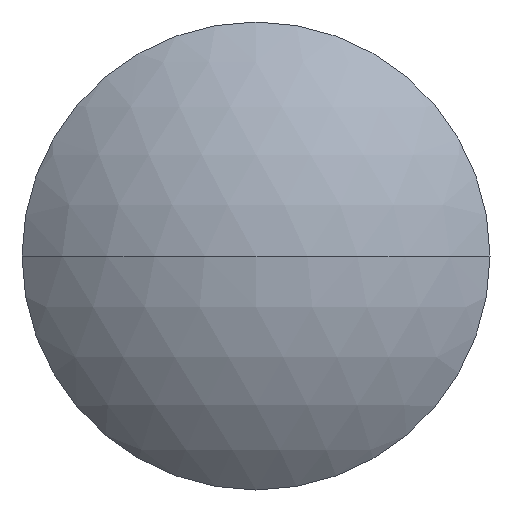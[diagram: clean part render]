
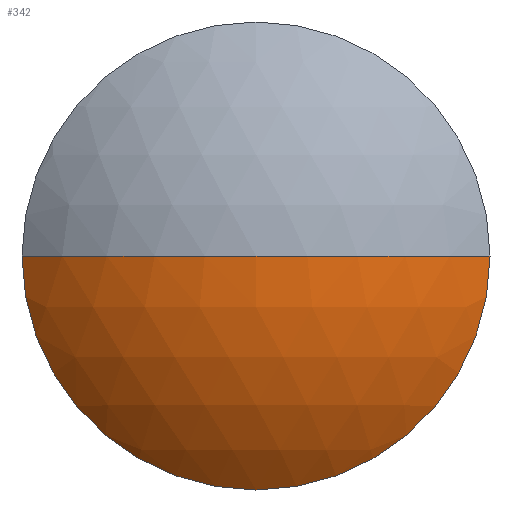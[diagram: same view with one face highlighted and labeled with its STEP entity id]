
A CAD part, left-side view. The second image highlights one B-rep face of the part: STEP entity #342.
In plain terms, the highlighted spherical face has radius 35.446 mm.
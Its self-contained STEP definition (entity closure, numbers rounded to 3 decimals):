
#9 = DIRECTION ( 'NONE',  ( 0., 0., -1. ) ) ;
#22 = ORIENTED_EDGE ( 'NONE', *, *, #210, .T. ) ;
#26 = DIRECTION ( 'NONE',  ( 0., 0., -1. ) ) ;
#29 = CARTESIAN_POINT ( 'NONE',  ( -2.5, 0., -24.15 ) ) ;
#31 = DIRECTION ( 'NONE',  ( -1., 0., 0. ) ) ;
#36 = AXIS2_PLACEMENT_3D ( 'NONE', #103, #292, #176 ) ;
#48 = ORIENTED_EDGE ( 'NONE', *, *, #271, .F. ) ;
#49 = SPHERICAL_SURFACE ( 'NONE', #340, 35.446 ) ;
#61 = EDGE_CURVE ( 'NONE', #125, #241, #304, .T. ) ;
#91 = CARTESIAN_POINT ( 'NONE',  ( -2.5, 24.15, 0. ) ) ;
#96 = AXIS2_PLACEMENT_3D ( 'NONE', #270, #9, #332 ) ;
#103 = CARTESIAN_POINT ( 'NONE',  ( -2.5, 0., 0. ) ) ;
#123 = DIRECTION ( 'NONE',  ( 0., 0., 1. ) ) ;
#125 = VERTEX_POINT ( 'NONE', #29 ) ;
#149 = EDGE_LOOP ( 'NONE', ( #22, #253, #178, #48 ) ) ;
#170 = CARTESIAN_POINT ( 'NONE',  ( 23.446, 0., 0. ) ) ;
#172 = CARTESIAN_POINT ( 'NONE',  ( -12., 0., 0. ) ) ;
#174 = CIRCLE ( 'NONE', #96, 35.446 ) ;
#176 = DIRECTION ( 'NONE',  ( 0., 0., 1. ) ) ;
#178 = ORIENTED_EDGE ( 'NONE', *, *, #267, .T. ) ;
#181 = DIRECTION ( 'NONE',  ( 0., 1., 0. ) ) ;
#210 = EDGE_CURVE ( 'NONE', #269, #125, #242, .T. ) ;
#211 = AXIS2_PLACEMENT_3D ( 'NONE', #265, #31, #123 ) ;
#241 = VERTEX_POINT ( 'NONE', #282 ) ;
#242 = CIRCLE ( 'NONE', #211, 24.15 ) ;
#247 = DIRECTION ( 'NONE',  ( 1., 0., 0. ) ) ;
#253 = ORIENTED_EDGE ( 'NONE', *, *, #61, .T. ) ;
#258 = CARTESIAN_POINT ( 'NONE',  ( 23.446, 0., 0. ) ) ;
#261 = FACE_OUTER_BOUND ( 'NONE', #149, .T. ) ;
#265 = CARTESIAN_POINT ( 'NONE',  ( -2.5, 0., 0. ) ) ;
#267 = EDGE_CURVE ( 'NONE', #241, #300, #174, .T. ) ;
#269 = VERTEX_POINT ( 'NONE', #91 ) ;
#270 = CARTESIAN_POINT ( 'NONE',  ( 23.446, 0., 0. ) ) ;
#271 = EDGE_CURVE ( 'NONE', #269, #300, #327, .T. ) ;
#282 = CARTESIAN_POINT ( 'NONE',  ( -2.5, -24.15, 0. ) ) ;
#292 = DIRECTION ( 'NONE',  ( -1., 0., 0. ) ) ;
#295 = AXIS2_PLACEMENT_3D ( 'NONE', #170, #302, #247 ) ;
#300 = VERTEX_POINT ( 'NONE', #172 ) ;
#302 = DIRECTION ( 'NONE',  ( 0., 0., 1. ) ) ;
#304 = CIRCLE ( 'NONE', #36, 24.15 ) ;
#327 = CIRCLE ( 'NONE', #295, 35.446 ) ;
#332 = DIRECTION ( 'NONE',  ( 0., 1., 0. ) ) ;
#340 = AXIS2_PLACEMENT_3D ( 'NONE', #258, #26, #181 ) ;
#342 = ADVANCED_FACE ( 'NONE', ( #261 ), #49, .T. ) ;
